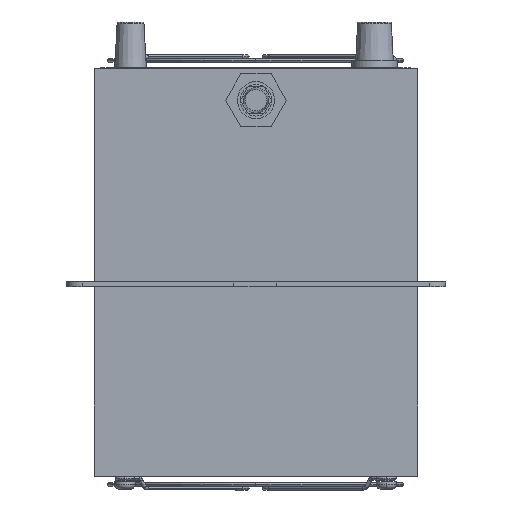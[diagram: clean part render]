
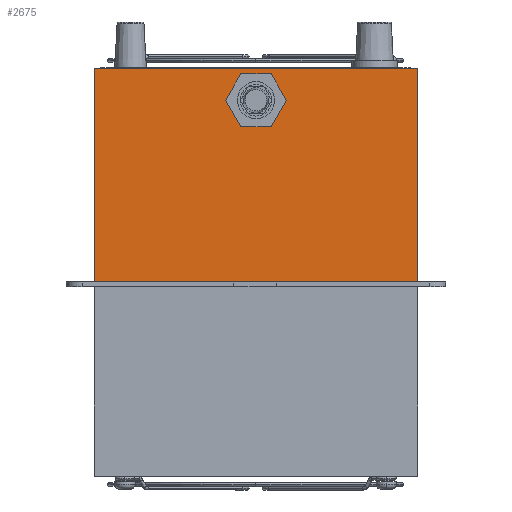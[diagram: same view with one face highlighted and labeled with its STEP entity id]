
A CAD part, front view. The second image highlights one B-rep face of the part: STEP entity #2675.
In plain terms, the highlighted planar face has unit normal (0, -1, 0).
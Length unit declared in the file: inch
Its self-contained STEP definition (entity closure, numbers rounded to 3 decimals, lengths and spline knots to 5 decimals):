
#98 = VERTEX_POINT ( 'NONE', #10725 ) ;
#158 = VERTEX_POINT ( 'NONE', #10784 ) ;
#304 = VERTEX_POINT ( 'NONE', #8367 ) ;
#680 = FACE_OUTER_BOUND ( 'NONE', #3579, .T. ) ;
#1450 = LINE ( 'NONE', #8034, #1476 ) ;
#1476 = VECTOR ( 'NONE', #8036, 39.37008 ) ;
#1499 = LINE ( 'NONE', #8117, #1662 ) ;
#1662 = VECTOR ( 'NONE', #8119, 39.37008 ) ;
#1812 = VECTOR ( 'NONE', #9850, 39.37008 ) ;
#2074 = VECTOR ( 'NONE', #9726, 39.37008 ) ;
#2126 = LINE ( 'NONE', #9731, #2074 ) ;
#2194 = LINE ( 'NONE', #9843, #1812 ) ;
#2675 = ADVANCED_FACE ( 'NONE', ( #680 ), #3174, .T. ) ;
#3172 = CARTESIAN_POINT ( 'NONE',  ( 2.51067, 8.93014, -6.45 ) ) ;
#3174 = PLANE ( 'NONE',  #4604 ) ;
#3176 = DIRECTION ( 'NONE',  ( 0., -1., 0. ) ) ;
#3177 = DIRECTION ( 'NONE',  ( 0., 0., -1. ) ) ;
#3579 = EDGE_LOOP ( 'NONE', ( #3637, #4190, #3594, #4225 ) ) ;
#3594 = ORIENTED_EDGE ( 'NONE', *, *, #9304, .F. ) ;
#3637 = ORIENTED_EDGE ( 'NONE', *, *, #8949, .F. ) ;
#4190 = ORIENTED_EDGE ( 'NONE', *, *, #8902, .T. ) ;
#4225 = ORIENTED_EDGE ( 'NONE', *, *, #9340, .F. ) ;
#4604 = AXIS2_PLACEMENT_3D ( 'NONE', #3172, #3176, #3177 ) ;
#7594 = CARTESIAN_POINT ( 'NONE',  ( 2.51067, 8.93014, 0. ) ) ;
#8034 = CARTESIAN_POINT ( 'NONE',  ( 2.51067, 8.93014, 0. ) ) ;
#8036 = DIRECTION ( 'NONE',  ( 1., 0., 0. ) ) ;
#8117 = CARTESIAN_POINT ( 'NONE',  ( 2.51067, 8.93014, -6.45 ) ) ;
#8119 = DIRECTION ( 'NONE',  ( 0., 0., 1. ) ) ;
#8367 = CARTESIAN_POINT ( 'NONE',  ( 7.63567, 8.93014, 0. ) ) ;
#8902 = EDGE_CURVE ( 'NONE', #158, #304, #2126, .T. ) ;
#8949 = EDGE_CURVE ( 'NONE', #158, #98, #2194, .T. ) ;
#9304 = EDGE_CURVE ( 'NONE', #11404, #304, #1450, .T. ) ;
#9340 = EDGE_CURVE ( 'NONE', #98, #11404, #1499, .T. ) ;
#9726 = DIRECTION ( 'NONE',  ( 0., 0., 1. ) ) ;
#9731 = CARTESIAN_POINT ( 'NONE',  ( 7.63567, 8.93014, -6.45 ) ) ;
#9843 = CARTESIAN_POINT ( 'NONE',  ( 2.51067, 8.93014, -3.375 ) ) ;
#9850 = DIRECTION ( 'NONE',  ( -1., 0., 0. ) ) ;
#10725 = CARTESIAN_POINT ( 'NONE',  ( 2.51067, 8.93014, -3.375 ) ) ;
#10784 = CARTESIAN_POINT ( 'NONE',  ( 7.63567, 8.93014, -3.375 ) ) ;
#11404 = VERTEX_POINT ( 'NONE', #7594 ) ;
